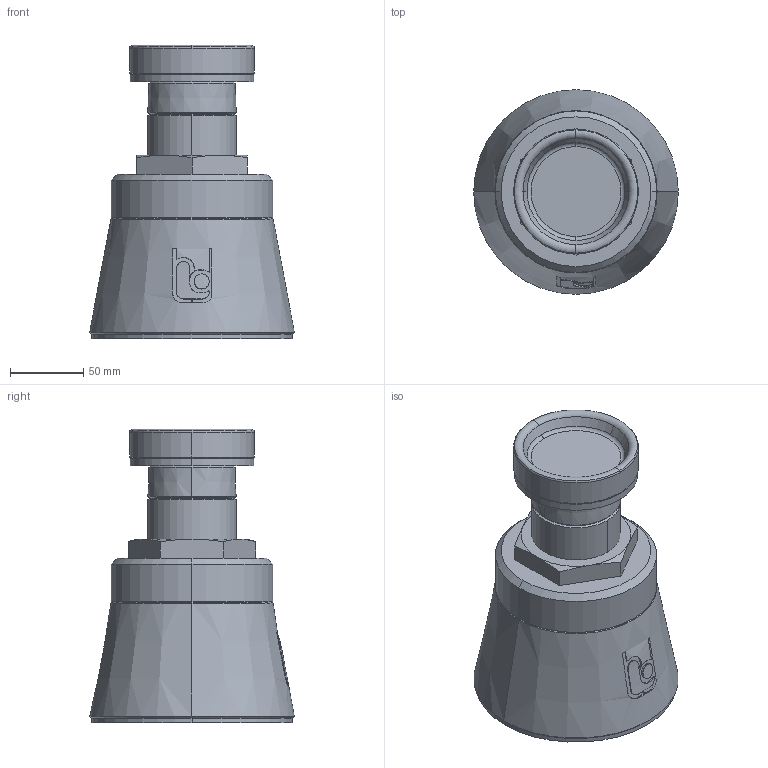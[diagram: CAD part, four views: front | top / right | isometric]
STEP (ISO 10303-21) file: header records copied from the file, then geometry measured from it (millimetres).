
FILE_DESCRIPTION(('STEP AP214'),'1');
FILE_NAME('RSRFS2-09-V0.stp','2018-07-02T06:35:55',(' '),(' '),'Spatial InterOp 3D',' ',' ');
FILE_SCHEMA(('automotive_design'));
Length unit declared in the file: millimetre
Products named in the file (6): 1; 2; 3; 4; 5; 6
Bounding box: 139.44 x 139.44 x 199.99 mm (x, y, z)
Volume: 1841904.7 mm3; surface area: 182540.6 mm2
Topology: 6 solids, 6 shells, 131 faces, 323 edges, 208 vertices
Faces by surface type: plane 50, cylinder 40, cone 31, torus 10
Entity records: 5610 total; most frequent: CARTESIAN_POINT 1303, DIRECTION 687, ORIENTED_EDGE 646, EDGE_CURVE 323, AXIS2_PLACEMENT_3D 276, VERTEX_POINT 208, STYLED_ITEM 137, PRESENTATION_STYLE_ASSIGNMENT 137
